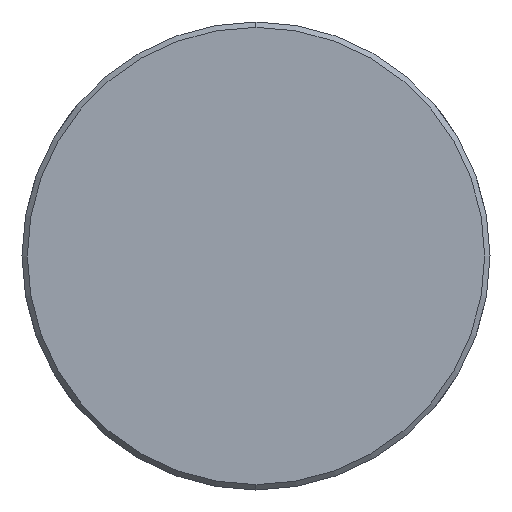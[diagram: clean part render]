
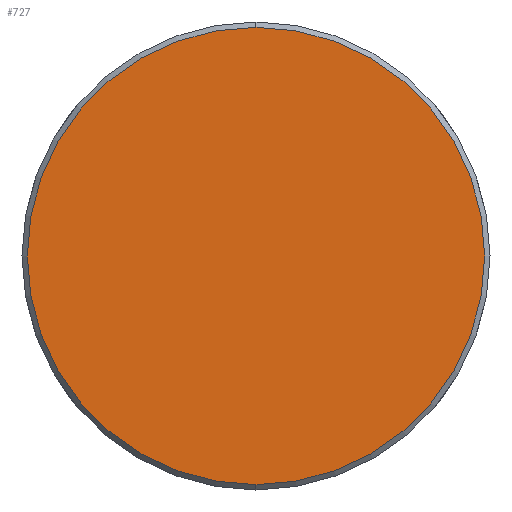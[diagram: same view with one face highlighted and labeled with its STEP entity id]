
A CAD part, left-side view. The second image highlights one B-rep face of the part: STEP entity #727.
In plain terms, the highlighted planar face has unit normal (-1, 0, 0).
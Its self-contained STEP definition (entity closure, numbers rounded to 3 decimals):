
#7 = DIRECTION ( 'NONE',  ( 1., 0., 0. ) ) ;
#48 = EDGE_LOOP ( 'NONE', ( #86, #1471 ) ) ;
#49 = DIRECTION ( 'NONE',  ( 0., 0., -1. ) ) ;
#57 = CARTESIAN_POINT ( 'NONE',  ( -56.35, 0., 0. ) ) ;
#86 = ORIENTED_EDGE ( 'NONE', *, *, #1307, .T. ) ;
#166 = DIRECTION ( 'NONE',  ( 0., 0., -1. ) ) ;
#171 = AXIS2_PLACEMENT_3D ( 'NONE', #57, #1400, #49 ) ;
#320 = CARTESIAN_POINT ( 'NONE',  ( -56.35, 0., 0. ) ) ;
#456 = DIRECTION ( 'NONE',  ( -1., 0., 0. ) ) ;
#727 = ADVANCED_FACE ( 'NONE', ( #1165 ), #1517, .F. ) ;
#813 = CARTESIAN_POINT ( 'NONE',  ( -56.35, -21.758, 21.758 ) ) ;
#1027 = CARTESIAN_POINT ( 'NONE',  ( -56.35, 0., 21.5 ) ) ;
#1084 = CIRCLE ( 'NONE', #1309, 21.5 ) ;
#1165 = FACE_OUTER_BOUND ( 'NONE', #48, .T. ) ;
#1218 = CARTESIAN_POINT ( 'NONE',  ( -56.35, 0., -21.5 ) ) ;
#1237 = AXIS2_PLACEMENT_3D ( 'NONE', #813, #7, #166 ) ;
#1307 = EDGE_CURVE ( 'NONE', #1616, #1454, #1508, .T. ) ;
#1309 = AXIS2_PLACEMENT_3D ( 'NONE', #320, #456, #1427 ) ;
#1391 = EDGE_CURVE ( 'NONE', #1454, #1616, #1084, .T. ) ;
#1400 = DIRECTION ( 'NONE',  ( -1., 0., 0. ) ) ;
#1427 = DIRECTION ( 'NONE',  ( 0., 0., -1. ) ) ;
#1454 = VERTEX_POINT ( 'NONE', #1027 ) ;
#1471 = ORIENTED_EDGE ( 'NONE', *, *, #1391, .T. ) ;
#1508 = CIRCLE ( 'NONE', #171, 21.5 ) ;
#1517 = PLANE ( 'NONE',  #1237 ) ;
#1616 = VERTEX_POINT ( 'NONE', #1218 ) ;
